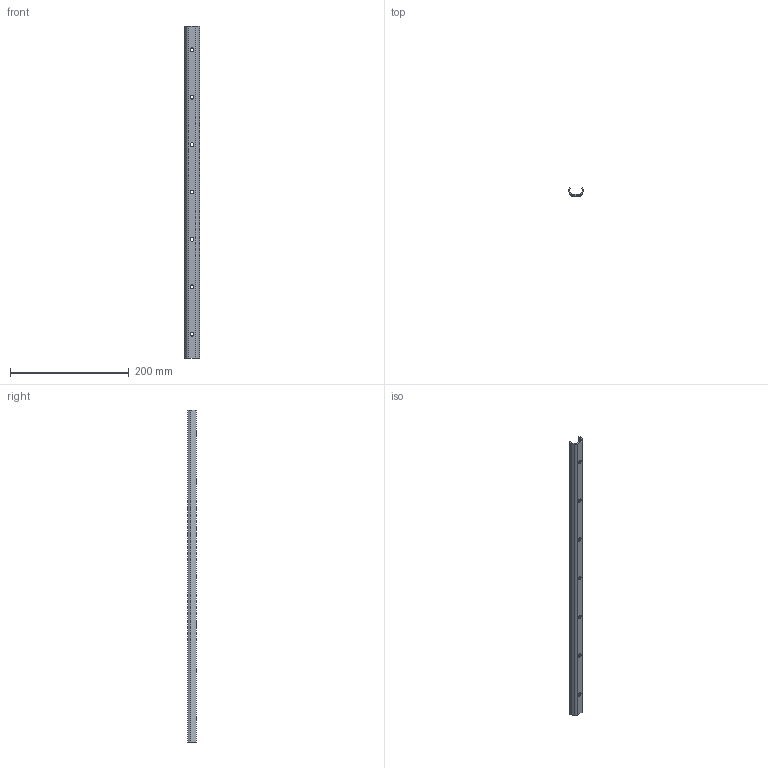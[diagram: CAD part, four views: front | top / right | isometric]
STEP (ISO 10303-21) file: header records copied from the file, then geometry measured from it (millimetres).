
FILE_DESCRIPTION(('STEP AP214'),'1');
FILE_NAME('rail_tex26-560.stp','2019-03-08T08:28:47',('TraceParts'),('TraceParts S.A.'),'Spatial InterOp 3D',' ',' ');
FILE_SCHEMA(('automotive_design'));
Length unit declared in the file: millimetre
Products named in the file (1): rail_tex26-560
Bounding box: 26.06 x 14 x 560 mm (x, y, z)
Volume: 57968.8 mm3; surface area: 49540.2 mm2
Topology: 1 solids, 1 shells, 154 faces, 402 edges, 268 vertices
Faces by surface type: plane 106, cylinder 26, bspline 22
Entity records: 9343 total; most frequent: CARTESIAN_POINT 4359, ORIENTED_EDGE 804, DIRECTION 676, EDGE_CURVE 402, LINE 306, VECTOR 306, VERTEX_POINT 268, EDGE_LOOP 186
